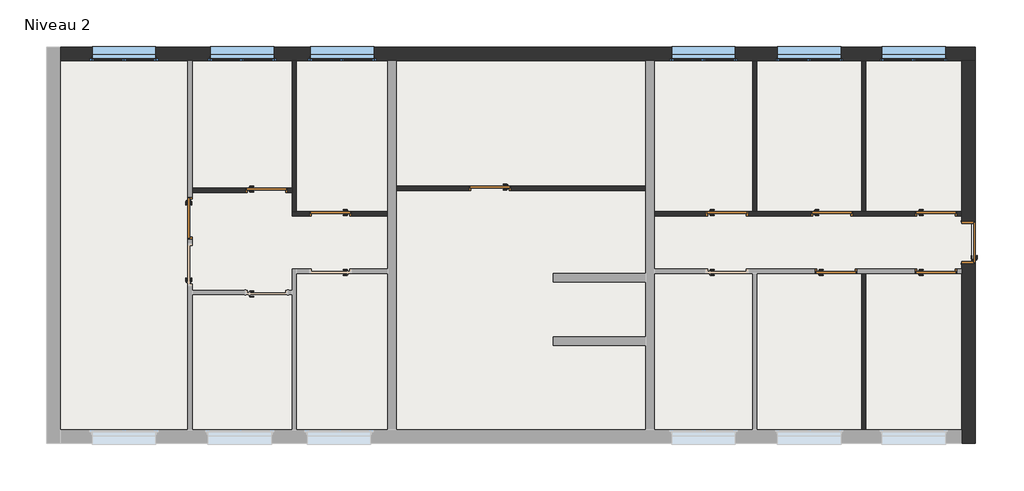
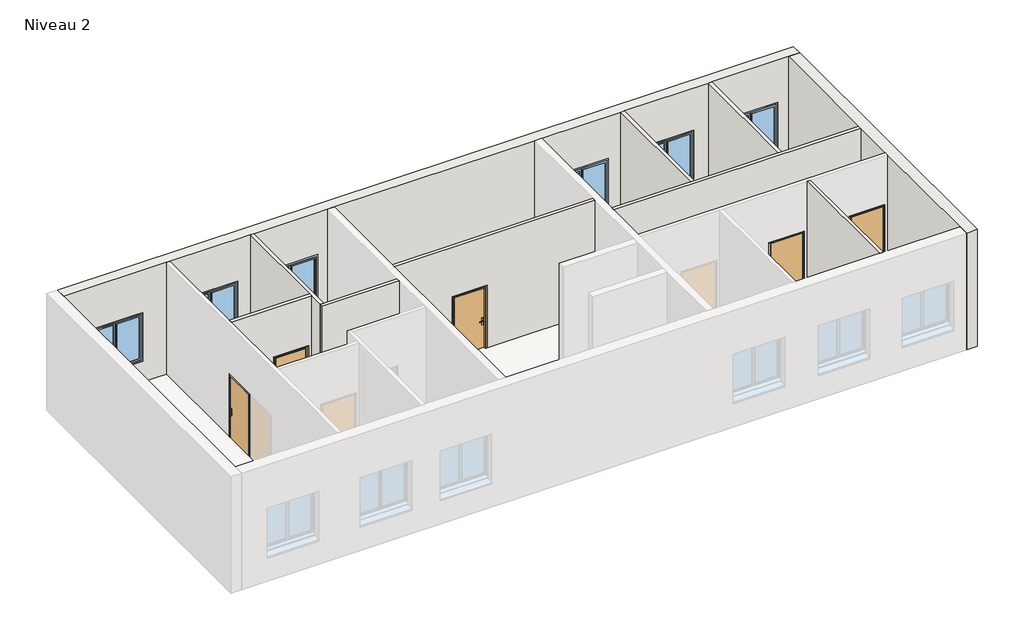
# One storey, part 2 of 2: 10 doors, 10 walls, 6 windows, 1 slab.
"""IFC4 building model written with IfcOpenShell, lengths in millimetres."""

from ifc_helpers import new_model, si_unit, frame, origin, place, context, project, spatial, polyline, outline, extrude, faceted_brep, transform, mapped, element, save
from components import int_simple_pp_0_93m_x_2_04m_4f2bf630, int_simple_pp_0_93m_x_2_04m_68d1b237, int_simple_pp_0_93m_x_2_04m_d9fe3ddc, window_4dd6e4df, window_9a843f60

model = new_model("IFC4")

# Units and contexts
model_context = context("Model", 3, world=origin())
ifc_project = project(units=[si_unit("LENGTHUNIT", "METRE", prefix="MILLI")], contexts=[model_context])

# Site, building, storey
site = spatial("IfcSite", under=ifc_project)
building = spatial("IfcBuilding", under=site)
storey = spatial("IfcBuildingStorey", under=building, Name="Niveau 2", Elevation=7200.0)

# Doors
placement = place(None, origin())
int_simple_pp_0_93m_x_2_04m_shape = int_simple_pp_0_93m_x_2_04m_4f2bf630(model_context)
element("IfcDoor", 1, ObjectType="Int. Simple : PP (0.93m x 2.04m)", at=placement, inside=storey, context=model_context, shape_type="MappedRepresentation", body=[
    mapped(int_simple_pp_0_93m_x_2_04m_shape, transform((4246.759299, -1075.3060551, 7200.0), x_axis=(1.0, 0.0, 0.0), y_axis=(0.0, 1.0, 0.0), z_axis=(0.0, 0.0, 1.0))),
])
element("IfcDoor", 2, ObjectType="Int. Simple : PP (0.93m x 2.04m)", at=placement, inside=storey, context=model_context, shape_type="MappedRepresentation", body=[
    mapped(int_simple_pp_0_93m_x_2_04m_shape, transform((6596.759299, -1075.3060551, 7200.0), x_axis=(1.0, 0.0, 0.0), y_axis=(0.0, 1.0, 0.0), z_axis=(0.0, 0.0, 1.0))),
])
element("IfcDoor", 3, ObjectType="Int. Simple : PP (0.93m x 2.04m)", at=placement, inside=storey, context=model_context, shape_type="MappedRepresentation", body=[
    mapped(int_simple_pp_0_93m_x_2_04m_shape, transform((-3953.240701, 874.6939449, 7200.0), x_axis=(-1.0, 0.0, 0.0), y_axis=(0.0, -1.0, 0.0), z_axis=(0.0, 0.0, 1.0))),
])
element("IfcDoor", 4, ObjectType="Int. Simple : PP (0.93m x 2.04m)", at=placement, inside=storey, context=model_context, shape_type="MappedRepresentation", body=[
    mapped(int_simple_pp_0_93m_x_2_04m_shape, transform((-7703.240701, 274.6939449, 7200.0), x_axis=(-1.0, 0.0, 0.0), y_axis=(0.0, -1.0, 0.0), z_axis=(0.0, 0.0, 1.0))),
])
element("IfcDoor", 5, ObjectType="Int. Simple : PP (0.93m x 2.04m)", at=placement, inside=storey, context=model_context, shape_type="MappedRepresentation", body=[
    mapped(int_simple_pp_0_93m_x_2_04m_shape, transform((-10968.240701, 139.6939449, 7200.0), x_axis=(0.0, -1.0, 0.0), y_axis=(1.0, 0.0, 0.0), z_axis=(0.0, 0.0, 1.0))),
])
int_simple_pp_0_93m_x_2_04m_2_shape = int_simple_pp_0_93m_x_2_04m_68d1b237(model_context)
element("IfcDoor", 6, ObjectType="Int. Simple : PP (0.93m x 2.04m)", at=placement, inside=storey, context=model_context, shape_type="MappedRepresentation", body=[
    mapped(int_simple_pp_0_93m_x_2_04m_2_shape, transform((6596.759299, 274.6939449, 7200.0), x_axis=(1.0, 0.0, 0.0), y_axis=(0.0, 1.0, 0.0), z_axis=(0.0, 0.0, 1.0))),
])
element("IfcDoor", 7, ObjectType="Int. Simple : PP (0.93m x 2.04m)", at=placement, inside=storey, context=model_context, shape_type="MappedRepresentation", body=[
    mapped(int_simple_pp_0_93m_x_2_04m_2_shape, transform((4146.759299, 274.6939449, 7200.0), x_axis=(1.0, 0.0, 0.0), y_axis=(0.0, 1.0, 0.0), z_axis=(0.0, 0.0, 1.0))),
])
element("IfcDoor", 8, ObjectType="Int. Simple : PP (0.93m x 2.04m)", at=placement, inside=storey, context=model_context, shape_type="MappedRepresentation", body=[
    mapped(int_simple_pp_0_93m_x_2_04m_2_shape, transform((1686.759299, 274.6939449, 7200.0), x_axis=(1.0, 0.0, 0.0), y_axis=(0.0, 1.0, 0.0), z_axis=(0.0, 0.0, 1.0))),
])
element("IfcDoor", 9, ObjectType="Int. Simple : PP (0.93m x 2.04m)", at=placement, inside=storey, context=model_context, shape_type="MappedRepresentation", body=[
    mapped(int_simple_pp_0_93m_x_2_04m_2_shape, transform((-9133.240701, 824.6939449, 7200.0), x_axis=(1.0, 0.0, 0.0), y_axis=(0.0, 1.0, 0.0), z_axis=(0.0, 0.0, 1.0))),
])
int_simple_pp_0_93m_x_2_04m_3_shape = int_simple_pp_0_93m_x_2_04m_d9fe3ddc(model_context)
element("IfcDoor", 10, ObjectType="Int. Simple : PP (0.93m x 2.04m)", at=placement, inside=storey, context=model_context, shape_type="MappedRepresentation", body=[
    mapped(int_simple_pp_0_93m_x_2_04m_3_shape, transform((7321.759299, -365.3060551, 7200.0), x_axis=(0.0, 1.0, 0.0), y_axis=(-1.0, 0.0, 0.0), z_axis=(0.0, 0.0, 1.0))),
])

# Slab
element("IfcSlab", 11, ObjectType="Dalle en béton - 150 mm", at=placement, inside=storey, context=model_context, shape_type="SweptSolid", body=[
    extrude(outline(polyline([(-14238.240701, -5025.3060551), (-14238.240701, 4094.6939449), (7381.759299, 4094.6939449), (7381.759299, -5025.3060551), (-14238.240701, -5025.3060551)])), frame((0.0, 0.0, 7200.0), z_axis=(0.0, 0.0, 1.0), x_axis=(1.0, 0.0, 0.0)), (0.0, 0.0, 1.0), 150.0),
])

# Walls
element("IfcWall", 12, ObjectType="Int. plâtre 100 mm", at=placement, inside=storey, context=model_context, shape_type="Brep", body=[
    faceted_brep([(7161.759299, 224.6939449, 10800.0), (-58.240701, 224.6939449, 10800.0), (-58.240701, 224.6939449, 7200.0), (1151.759299, 224.6939449, 7200.0), (1151.759299, 224.6939449, 9275.0), (2151.759299, 224.6939449, 9275.0), (2151.759299, 224.6939449, 7200.0), (3611.759299, 224.6939449, 7200.0), (3611.759299, 224.6939449, 9275.0), (4611.759299, 224.6939449, 9275.0), (4611.759299, 224.6939449, 7200.0), (6061.759299, 224.6939449, 7200.0), (6061.759299, 224.6939449, 9275.0), (7061.759299, 224.6939449, 9275.0), (7061.759299, 224.6939449, 7200.0), (7161.759299, 224.6939449, 7200.0), (-58.240701, 324.6939449, 10800.0), (2251.759299, 324.6939449, 10800.0), (2351.759299, 324.6939449, 10800.0), (4811.759299, 324.6939449, 10800.0), (4911.759299, 324.6939449, 10800.0), (7161.759299, 324.6939449, 10800.0), (7161.759299, 324.6939449, 7200.0), (7061.759299, 324.6939449, 7200.0), (7061.759299, 324.6939449, 9275.0), (6061.759299, 324.6939449, 9275.0), (6061.759299, 324.6939449, 7200.0), (4911.759299, 324.6939449, 7200.0), (4811.759299, 324.6939449, 7200.0), (4611.759299, 324.6939449, 7200.0), (4611.759299, 324.6939449, 9275.0), (3611.759299, 324.6939449, 9275.0), (3611.759299, 324.6939449, 7200.0), (2351.759299, 324.6939449, 7200.0), (2251.759299, 324.6939449, 7200.0), (2151.759299, 324.6939449, 7200.0), (2151.759299, 324.6939449, 9275.0), (1151.759299, 324.6939449, 9275.0), (1151.759299, 324.6939449, 7200.0), (-58.240701, 324.6939449, 7200.0)], [[[0, 1, 2, 3, 4, 5, 6, 7, 8, 9, 10, 11, 12, 13, 14, 15]], [[16, 17, 18, 19, 20, 21, 22, 23, 24, 25, 26, 27, 28, 29, 30, 31, 32, 33, 34, 35, 36, 37, 38, 39]], [[2, 39, 38, 3]], [[22, 15, 14, 23]], [[26, 11, 10, 29, 28, 27]], [[32, 7, 6, 35, 34, 33]], [[1, 0, 21, 20, 19, 18, 17, 16]], [[0, 15, 22, 21]], [[2, 1, 16, 39]], [[13, 24, 23, 14]], [[24, 13, 12, 25]], [[25, 12, 11, 26]], [[10, 9, 30, 29]], [[9, 8, 31, 30]], [[8, 7, 32, 31]], [[5, 36, 35, 6]], [[36, 5, 4, 37]], [[37, 4, 3, 38]]]),
])
element("IfcWall", 13, ObjectType="Int. plâtre 100 mm", at=placement, inside=storey, context=model_context, shape_type="SweptSolid", body=[
    extrude(outline(polyline([(4911.759299, -1125.3060551), (4911.759299, -4805.3060551), (4811.759299, -4805.3060551), (4811.759299, -1125.3060551), (4911.759299, -1125.3060551)])), frame((0.0, 0.0, 7200.0), z_axis=(0.0, 0.0, 1.0), x_axis=(1.0, 0.0, 0.0)), (0.0, 0.0, 1.0), 3600.0),
])
element("IfcWall", 14, ObjectType="Int. plâtre 100 mm", at=placement, inside=storey, context=model_context, shape_type="SweptSolid", body=[
    extrude(outline(polyline([(2251.759299, 324.6939449), (2251.759299, 3874.6939449), (2351.759299, 3874.6939449), (2351.759299, 324.6939449), (2251.759299, 324.6939449)])), frame((0.0, 0.0, 7200.0), z_axis=(0.0, 0.0, 1.0), x_axis=(1.0, 0.0, 0.0)), (0.0, 0.0, 1.0), 3600.0),
])
element("IfcWall", 15, ObjectType="Int. plâtre 100 mm", at=placement, inside=storey, context=model_context, shape_type="SweptSolid", body=[
    extrude(outline(polyline([(4811.759299, 324.6939449), (4811.759299, 3874.6939449), (4911.759299, 3874.6939449), (4911.759299, 324.6939449), (4811.759299, 324.6939449)])), frame((0.0, 0.0, 7200.0), z_axis=(0.0, 0.0, 1.0), x_axis=(1.0, 0.0, 0.0)), (0.0, 0.0, 1.0), 3600.0),
])
element("IfcWall", 16, ObjectType="Int. plâtre 100 mm", at=placement, inside=storey, context=model_context, shape_type="Brep", body=[
    faceted_brep([(-8568.240701, 324.6939449, 10800.0), (-8468.240701, 324.6939449, 10800.0), (-6318.240701, 324.6939449, 10800.0), (-6318.240701, 324.6939449, 7200.0), (-7168.240701, 324.6939449, 7200.0), (-7168.240701, 324.6939449, 9275.0), (-8168.240701, 324.6939449, 9275.0), (-8168.240701, 324.6939449, 7200.0), (-8468.240701, 324.6939449, 7200.0), (-8568.240701, 324.6939449, 7200.0), (-6318.240701, 224.6939449, 10800.0), (-8568.240701, 224.6939449, 10800.0), (-8568.240701, 224.6939449, 7200.0), (-8168.240701, 224.6939449, 7200.0), (-8168.240701, 224.6939449, 9275.0), (-7168.240701, 224.6939449, 9275.0), (-7168.240701, 224.6939449, 7200.0), (-6318.240701, 224.6939449, 7200.0)], [[[0, 1, 2, 3, 4, 5, 6, 7, 8, 9]], [[10, 11, 12, 13, 14, 15, 16, 17]], [[3, 17, 16, 4]], [[12, 9, 8, 7, 13]], [[2, 1, 0, 11, 10]], [[3, 2, 10, 17]], [[0, 9, 12, 11]], [[6, 14, 13, 7]], [[14, 6, 5, 15]], [[15, 5, 4, 16]]]),
])
element("IfcWall", 17, ObjectType="Int. plâtre 100 mm", at=placement, inside=storey, context=model_context, shape_type="Brep", body=[
    faceted_brep([(-8468.240701, 324.6939449, 7200.0), (-8468.240701, 3874.6939449, 7200.0), (-8468.240701, 3874.6939449, 10800.0), (-8468.240701, 324.6939449, 10800.0), (-8568.240701, 324.6939449, 7200.0), (-8568.240701, 324.6939449, 10800.0), (-8568.240701, 774.6939449, 10800.0), (-8568.240701, 874.6939449, 10800.0), (-8568.240701, 3874.6939449, 10800.0), (-8568.240701, 3874.6939449, 7200.0), (-8568.240701, 874.6939449, 7200.0), (-8568.240701, 774.6939449, 7200.0)], [[[0, 1, 2, 3]], [[4, 5, 6, 7, 8, 9, 10, 11]], [[1, 0, 4, 11, 10, 9]], [[3, 2, 8, 7, 6, 5]], [[0, 3, 5, 4]], [[2, 1, 9, 8]]]),
])
element("IfcWall", 18, ObjectType="Int. plâtre 100 mm", at=placement, inside=storey, context=model_context, shape_type="SweptSolid", body=[
    extrude(outline(polyline([(10800.0, -8568.240701), (10800.0, -10918.240701), (7200.0, -10918.240701), (7200.0, -9668.240701), (9275.0, -9668.240701), (9275.0, -8668.240701), (7200.0, -8668.240701), (7200.0, -8568.240701), (10800.0, -8568.240701)])), frame((0.0, 774.6939449, 0.0), z_axis=(0.0, 1.0, 0.0), x_axis=(0.0, 0.0, 1.0)), (0.0, 0.0, 1.0), 100.0),
])
element("IfcWall", 19, ObjectType="Int. plâtre 100 mm", at=placement, inside=storey, context=model_context, shape_type="SweptSolid", body=[
    extrude(outline(polyline([(10800.0, -258.240701), (10800.0, -6118.240701), (7200.0, -6118.240701), (7200.0, -4418.240701), (9275.0, -4418.240701), (9275.0, -3418.240701), (7200.0, -3418.240701), (7200.0, -258.240701), (10800.0, -258.240701)])), frame((0.0, 824.6939449, 0.0), z_axis=(0.0, 1.0, 0.0), x_axis=(0.0, 0.0, 1.0)), (0.0, 0.0, 1.0), 100.0),
])
element("IfcWall", 20, ObjectType="Ext. Voile BA 20 + Isolant 10", at=placement, inside=storey, context=model_context, shape_type="Brep", body=[
    faceted_brep([(-14018.240701, 3874.6939449, 7200.0), (-11018.240701, 3874.6939449, 7200.0), (-10918.240701, 3874.6939449, 7200.0), (-8568.240701, 3874.6939449, 7200.0), (-8468.240701, 3874.6939449, 7200.0), (-6318.240701, 3874.6939449, 7200.0), (-6118.240701, 3874.6939449, 7200.0), (-258.240701, 3874.6939449, 7200.0), (-58.240701, 3874.6939449, 7200.0), (2251.759299, 3874.6939449, 7200.0), (2351.759299, 3874.6939449, 7200.0), (4811.759299, 3874.6939449, 7200.0), (4911.759299, 3874.6939449, 7200.0), (7161.759299, 3874.6939449, 7200.0), (7481.759299, 3874.6939449, 7200.0), (7481.759299, 3874.6939449, 10800.0), (7161.759299, 3874.6939449, 10800.0), (4911.759299, 3874.6939449, 10800.0), (4811.759299, 3874.6939449, 10800.0), (2351.759299, 3874.6939449, 10800.0), (2251.759299, 3874.6939449, 10800.0), (-58.240701, 3874.6939449, 10800.0), (-258.240701, 3874.6939449, 10800.0), (-6118.240701, 3874.6939449, 10800.0), (-6318.240701, 3874.6939449, 10800.0), (-8468.240701, 3874.6939449, 10800.0), (-8568.240701, 3874.6939449, 10800.0), (-10918.240701, 3874.6939449, 10800.0), (-11018.240701, 3874.6939449, 10800.0), (-14018.240701, 3874.6939449, 10800.0), (-6593.240701, 3874.6939449, 8000.0), (-8193.240701, 3874.6939449, 8000.0), (-8193.240701, 3874.6939449, 9500.0), (-6593.240701, 3874.6939449, 9500.0), (-8943.240701, 3874.6939449, 8000.0), (-10543.240701, 3874.6939449, 8000.0), (-10543.240701, 3874.6939449, 9500.0), (-8943.240701, 3874.6939449, 9500.0), (-11718.240701, 3874.6939449, 8000.0), (-13318.240701, 3874.6939449, 8000.0), (-13318.240701, 3874.6939449, 9500.0), (-11718.240701, 3874.6939449, 9500.0), (6836.759299, 3874.6939449, 8000.0), (5236.759299, 3874.6939449, 8000.0), (5236.759299, 3874.6939449, 9500.0), (6836.759299, 3874.6939449, 9500.0), (4381.759299, 3874.6939449, 8000.0), (2781.759299, 3874.6939449, 8000.0), (2781.759299, 3874.6939449, 9500.0), (4381.759299, 3874.6939449, 9500.0), (1896.759299, 3874.6939449, 8000.0), (296.759299, 3874.6939449, 8000.0), (296.759299, 3874.6939449, 9500.0), (1896.759299, 3874.6939449, 9500.0), (-14018.240701, 4194.6939449, 7200.0), (-14018.240701, 4194.6939449, 10800.0), (7481.759299, 4194.6939449, 10800.0), (7481.759299, 4194.6939449, 7200.0), (-8143.240701, 4194.6939449, 9450.0), (-8143.240701, 4194.6939449, 7920.0), (-6643.240701, 4194.6939449, 7920.0), (-6643.240701, 4194.6939449, 9450.0), (-10493.240701, 4194.6939449, 9450.0), (-10493.240701, 4194.6939449, 7920.0), (-8993.240701, 4194.6939449, 7920.0), (-8993.240701, 4194.6939449, 9450.0), (-11768.240701, 4194.6939449, 7920.0), (-11768.240701, 4194.6939449, 9450.0), (-13268.240701, 4194.6939449, 9450.0), (-13268.240701, 4194.6939449, 7920.0), (5286.759299, 4194.6939449, 9450.0), (5286.759299, 4194.6939449, 7920.0), (6786.759299, 4194.6939449, 7920.0), (6786.759299, 4194.6939449, 9450.0), (2831.759299, 4194.6939449, 9450.0), (2831.759299, 4194.6939449, 7920.0), (4331.759299, 4194.6939449, 7920.0), (4331.759299, 4194.6939449, 9450.0), (346.759299, 4194.6939449, 9450.0), (346.759299, 4194.6939449, 7920.0), (1846.759299, 4194.6939449, 7920.0), (1846.759299, 4194.6939449, 9450.0), (-8143.240701, 3954.6939449, 8000.0), (-8143.240701, 3954.6939449, 7920.0), (-8143.240701, 3974.6939449, 9450.0), (-8143.240701, 3974.6939449, 8000.0), (-6643.240701, 3954.6939449, 7920.0), (-6643.240701, 3954.6939449, 8000.0), (-6643.240701, 3974.6939449, 8000.0), (-6643.240701, 3974.6939449, 9450.0), (-8153.240701, 3974.6939449, 8000.0), (-8153.240701, 3924.6939449, 8000.0), (-8193.240701, 3924.6939449, 8000.0), (-6593.240701, 3924.6939449, 8000.0), (-6633.240701, 3924.6939449, 8000.0), (-6633.240701, 3974.6939449, 8000.0), (-8193.240701, 3924.6939449, 9500.0), (-8153.240701, 3924.6939449, 9460.0), (-6633.240701, 3924.6939449, 9460.0), (-6593.240701, 3924.6939449, 9500.0), (-8153.240701, 3974.6939449, 9460.0), (-6633.240701, 3974.6939449, 9460.0), (-10493.240701, 3954.6939449, 8000.0), (-10493.240701, 3954.6939449, 7920.0), (-10493.240701, 3974.6939449, 9450.0), (-10493.240701, 3974.6939449, 8000.0), (-8993.240701, 3954.6939449, 7920.0), (-8993.240701, 3954.6939449, 8000.0), (-8993.240701, 3974.6939449, 8000.0), (-8993.240701, 3974.6939449, 9450.0), (-10503.240701, 3974.6939449, 8000.0), (-10503.240701, 3924.6939449, 8000.0), (-10543.240701, 3924.6939449, 8000.0), (-8943.240701, 3924.6939449, 8000.0), (-8983.240701, 3924.6939449, 8000.0), (-8983.240701, 3974.6939449, 8000.0), (-10543.240701, 3924.6939449, 9500.0), (-10503.240701, 3924.6939449, 9460.0), (-8983.240701, 3924.6939449, 9460.0), (-8943.240701, 3924.6939449, 9500.0), (-10503.240701, 3974.6939449, 9460.0), (-8983.240701, 3974.6939449, 9460.0), (-11768.240701, 3954.6939449, 8000.0), (-11768.240701, 3974.6939449, 8000.0), (-11768.240701, 3974.6939449, 9450.0), (-11768.240701, 3954.6939449, 7920.0), (-13268.240701, 3954.6939449, 7920.0), (-13268.240701, 3974.6939449, 9450.0), (-13268.240701, 3974.6939449, 8000.0), (-13268.240701, 3954.6939449, 8000.0), (-13278.240701, 3974.6939449, 8000.0), (-13278.240701, 3924.6939449, 8000.0), (-13318.240701, 3924.6939449, 8000.0), (-11718.240701, 3924.6939449, 8000.0), (-11758.240701, 3924.6939449, 8000.0), (-11758.240701, 3974.6939449, 8000.0), (-11718.240701, 3924.6939449, 9500.0), (-13318.240701, 3924.6939449, 9500.0), (-13278.240701, 3924.6939449, 9460.0), (-11758.240701, 3924.6939449, 9460.0), (-11758.240701, 3974.6939449, 9460.0), (-13278.240701, 3974.6939449, 9460.0), (5286.759299, 3954.6939449, 8000.0), (5286.759299, 3954.6939449, 7920.0), (5286.759299, 3974.6939449, 9450.0), (5286.759299, 3974.6939449, 8000.0), (6786.759299, 3954.6939449, 7920.0), (6786.759299, 3954.6939449, 8000.0), (6786.759299, 3974.6939449, 8000.0), (6786.759299, 3974.6939449, 9450.0), (5276.759299, 3974.6939449, 8000.0), (5276.759299, 3924.6939449, 8000.0), (5236.759299, 3924.6939449, 8000.0), (6836.759299, 3924.6939449, 8000.0), (6796.759299, 3924.6939449, 8000.0), (6796.759299, 3974.6939449, 8000.0), (5236.759299, 3924.6939449, 9500.0), (5276.759299, 3924.6939449, 9460.0), (6796.759299, 3924.6939449, 9460.0), (6836.759299, 3924.6939449, 9500.0), (5276.759299, 3974.6939449, 9460.0), (6796.759299, 3974.6939449, 9460.0), (2831.759299, 3954.6939449, 8000.0), (2831.759299, 3954.6939449, 7920.0), (2831.759299, 3974.6939449, 9450.0), (2831.759299, 3974.6939449, 8000.0), (4331.759299, 3954.6939449, 7920.0), (4331.759299, 3954.6939449, 8000.0), (4331.759299, 3974.6939449, 8000.0), (4331.759299, 3974.6939449, 9450.0), (2821.759299, 3974.6939449, 8000.0), (2821.759299, 3924.6939449, 8000.0), (2781.759299, 3924.6939449, 8000.0), (4381.759299, 3924.6939449, 8000.0), (4341.759299, 3924.6939449, 8000.0), (4341.759299, 3974.6939449, 8000.0), (2781.759299, 3924.6939449, 9500.0), (2821.759299, 3924.6939449, 9460.0), (4341.759299, 3924.6939449, 9460.0), (4381.759299, 3924.6939449, 9500.0), (2821.759299, 3974.6939449, 9460.0), (4341.759299, 3974.6939449, 9460.0), (346.759299, 3954.6939449, 8000.0), (346.759299, 3954.6939449, 7920.0), (346.759299, 3974.6939449, 9450.0), (346.759299, 3974.6939449, 8000.0), (1846.759299, 3954.6939449, 7920.0), (1846.759299, 3954.6939449, 8000.0), (1846.759299, 3974.6939449, 8000.0), (1846.759299, 3974.6939449, 9450.0), (336.759299, 3974.6939449, 8000.0), (336.759299, 3924.6939449, 8000.0), (296.759299, 3924.6939449, 8000.0), (1896.759299, 3924.6939449, 8000.0), (1856.759299, 3924.6939449, 8000.0), (1856.759299, 3974.6939449, 8000.0), (296.759299, 3924.6939449, 9500.0), (336.759299, 3924.6939449, 9460.0), (1856.759299, 3924.6939449, 9460.0), (1896.759299, 3924.6939449, 9500.0), (336.759299, 3974.6939449, 9460.0), (1856.759299, 3974.6939449, 9460.0)], [[[0, 1, 2, 3, 4, 5, 6, 7, 8, 9, 10, 11, 12, 13, 14, 15, 16, 17, 18, 19, 20, 21, 22, 23, 24, 25, 26, 27, 28, 29], [30, 31, 32, 33], [34, 35, 36, 37], [38, 39, 40, 41], [42, 43, 44, 45], [46, 47, 48, 49], [50, 51, 52, 53]], [[54, 55, 56, 57], [58, 59, 60, 61], [62, 63, 64, 65], [66, 67, 68, 69], [70, 71, 72, 73], [74, 75, 76, 77], [78, 79, 80, 81]], [[14, 13, 12, 11, 10, 9, 8, 7, 6, 5, 4, 3, 2, 1, 0, 54, 57]], [[29, 28, 27, 26, 25, 24, 23, 22, 21, 20, 19, 18, 17, 16, 15, 56, 55]], [[0, 29, 55, 54]], [[15, 14, 57, 56]], [[82, 83, 59, 58, 84, 85]], [[86, 87, 88, 89, 61, 60]], [[83, 86, 60, 59]], [[83, 82, 87, 86]], [[58, 61, 89, 84]], [[87, 82, 85, 90, 91, 92, 31, 30, 93, 94, 95, 88]], [[31, 92, 96, 32]], [[92, 91, 97, 98, 94, 93, 99, 96]], [[91, 90, 100, 97]], [[90, 85, 84, 89, 88, 95, 101, 100]], [[32, 96, 99, 33]], [[98, 97, 100, 101]], [[99, 93, 30, 33]], [[94, 98, 101, 95]], [[102, 103, 63, 62, 104, 105]], [[106, 107, 108, 109, 65, 64]], [[103, 106, 64, 63]], [[103, 102, 107, 106]], [[62, 65, 109, 104]], [[107, 102, 105, 110, 111, 112, 35, 34, 113, 114, 115, 108]], [[35, 112, 116, 36]], [[112, 111, 117, 118, 114, 113, 119, 116]], [[111, 110, 120, 117]], [[110, 105, 104, 109, 108, 115, 121, 120]], [[36, 116, 119, 37]], [[118, 117, 120, 121]], [[119, 113, 34, 37]], [[114, 118, 121, 115]], [[122, 123, 124, 67, 66, 125]], [[126, 69, 68, 127, 128, 129]], [[125, 66, 69, 126]], [[125, 126, 129, 122]], [[67, 124, 127, 68]], [[129, 128, 130, 131, 132, 39, 38, 133, 134, 135, 123, 122]], [[38, 41, 136, 133]], [[133, 136, 137, 132, 131, 138, 139, 134]], [[134, 139, 140, 135]], [[135, 140, 141, 130, 128, 127, 124, 123]], [[41, 40, 137, 136]], [[138, 141, 140, 139]], [[137, 40, 39, 132]], [[131, 130, 141, 138]], [[142, 143, 71, 70, 144, 145]], [[146, 147, 148, 149, 73, 72]], [[143, 146, 72, 71]], [[143, 142, 147, 146]], [[70, 73, 149, 144]], [[147, 142, 145, 150, 151, 152, 43, 42, 153, 154, 155, 148]], [[43, 152, 156, 44]], [[152, 151, 157, 158, 154, 153, 159, 156]], [[151, 150, 160, 157]], [[150, 145, 144, 149, 148, 155, 161, 160]], [[44, 156, 159, 45]], [[158, 157, 160, 161]], [[159, 153, 42, 45]], [[154, 158, 161, 155]], [[162, 163, 75, 74, 164, 165]], [[166, 167, 168, 169, 77, 76]], [[163, 166, 76, 75]], [[163, 162, 167, 166]], [[74, 77, 169, 164]], [[167, 162, 165, 170, 171, 172, 47, 46, 173, 174, 175, 168]], [[47, 172, 176, 48]], [[172, 171, 177, 178, 174, 173, 179, 176]], [[171, 170, 180, 177]], [[170, 165, 164, 169, 168, 175, 181, 180]], [[48, 176, 179, 49]], [[178, 177, 180, 181]], [[179, 173, 46, 49]], [[174, 178, 181, 175]], [[182, 183, 79, 78, 184, 185]], [[186, 187, 188, 189, 81, 80]], [[183, 186, 80, 79]], [[183, 182, 187, 186]], [[78, 81, 189, 184]], [[187, 182, 185, 190, 191, 192, 51, 50, 193, 194, 195, 188]], [[51, 192, 196, 52]], [[192, 191, 197, 198, 194, 193, 199, 196]], [[191, 190, 200, 197]], [[190, 185, 184, 189, 188, 195, 201, 200]], [[52, 196, 199, 53]], [[198, 197, 200, 201]], [[199, 193, 50, 53]], [[194, 198, 201, 195]]]),
])
element("IfcWall", 21, ObjectType="Ext. Voile BA 20 + Isolant 10", at=placement, inside=storey, context=model_context, shape_type="Brep", body=[
    faceted_brep([(7161.759299, -5125.3060551, 10800.0), (7161.759299, -4805.3060551, 10800.0), (7161.759299, -1125.3060551, 10800.0), (7161.759299, -1025.3060551, 10800.0), (7161.759299, 224.6939449, 10800.0), (7161.759299, 324.6939449, 10800.0), (7161.759299, 3874.6939449, 10800.0), (7161.759299, 3874.6939449, 7200.0), (7161.759299, 324.6939449, 7200.0), (7161.759299, 224.6939449, 7200.0), (7161.759299, 99.6939449, 7200.0), (7161.759299, 99.6939449, 9275.0), (7161.759299, -900.3060551, 9275.0), (7161.759299, -900.3060551, 7200.0), (7161.759299, -1025.3060551, 7200.0), (7161.759299, -1125.3060551, 7200.0), (7161.759299, -4805.3060551, 7200.0), (7161.759299, -5125.3060551, 7200.0), (7481.759299, 3874.6939449, 10800.0), (7481.759299, -5125.3060551, 10800.0), (7481.759299, -5125.3060551, 7200.0), (7481.759299, -900.3060551, 7200.0), (7481.759299, -900.3060551, 9275.0), (7481.759299, 99.6939449, 9275.0), (7481.759299, 99.6939449, 7200.0), (7481.759299, 3874.6939449, 7200.0)], [[[0, 1, 2, 3, 4, 5, 6, 7, 8, 9, 10, 11, 12, 13, 14, 15, 16, 17]], [[18, 19, 20, 21, 22, 23, 24, 25]], [[7, 25, 24, 10, 9, 8]], [[20, 17, 16, 15, 14, 13, 21]], [[6, 5, 4, 3, 2, 1, 0, 19, 18]], [[7, 6, 18, 25]], [[0, 17, 20, 19]], [[23, 11, 10, 24]], [[11, 23, 22, 12]], [[12, 22, 21, 13]]]),
])

# Windows
window_shape = window_4dd6e4df(model_context)
element("IfcWindow", 22, ObjectType="2 Vantaux - Droits : 1.50m x 1.45m - Appui Béton", at=placement, inside=storey, context=model_context, shape_type="MappedRepresentation", body=[
    mapped(window_shape, transform((1096.759299, 4034.6939449, 7200.0), x_axis=(1.0, 0.0, 0.0), y_axis=(0.0, 1.0, 0.0), z_axis=(0.0, 0.0, 1.0))),
])
element("IfcWindow", 23, ObjectType="2 Vantaux - Droits : 1.50m x 1.45m - Appui Béton", at=placement, inside=storey, context=model_context, shape_type="MappedRepresentation", body=[
    mapped(window_shape, transform((3581.759299, 4034.6939449, 7200.0), x_axis=(1.0, 0.0, 0.0), y_axis=(0.0, 1.0, 0.0), z_axis=(0.0, 0.0, 1.0))),
])
element("IfcWindow", 24, ObjectType="2 Vantaux - Droits : 1.50m x 1.45m - Appui Béton", at=placement, inside=storey, context=model_context, shape_type="MappedRepresentation", body=[
    mapped(window_shape, transform((6036.759299, 4034.6939449, 7200.0), x_axis=(1.0, 0.0, 0.0), y_axis=(0.0, 1.0, 0.0), z_axis=(0.0, 0.0, 1.0))),
])
element("IfcWindow", 25, ObjectType="2 Vantaux - Droits : 1.50m x 1.45m - Appui Béton", at=placement, inside=storey, context=model_context, shape_type="MappedRepresentation", body=[
    mapped(window_shape, transform((-9743.240701, 4034.6939449, 7200.0), x_axis=(1.0, 0.0, 0.0), y_axis=(0.0, 1.0, 0.0), z_axis=(0.0, 0.0, 1.0))),
])
element("IfcWindow", 26, ObjectType="2 Vantaux - Droits : 1.50m x 1.45m - Appui Béton", at=placement, inside=storey, context=model_context, shape_type="MappedRepresentation", body=[
    mapped(window_shape, transform((-7393.240701, 4034.6939449, 7200.0), x_axis=(1.0, 0.0, 0.0), y_axis=(0.0, 1.0, 0.0), z_axis=(0.0, 0.0, 1.0))),
])
window_2_shape = window_9a843f60(model_context)
element("IfcWindow", 27, ObjectType="2 Vantaux - Droits : 1.50m x 1.45m - Appui Béton", at=placement, inside=storey, context=model_context, shape_type="MappedRepresentation", body=[
    mapped(window_2_shape, transform((-12518.240701, 4034.6939449, 7200.0), x_axis=(-1.0, 0.0, 0.0), y_axis=(0.0, -1.0, 0.0), z_axis=(0.0, 0.0, 1.0))),
])

save(model, "model.ifc")
